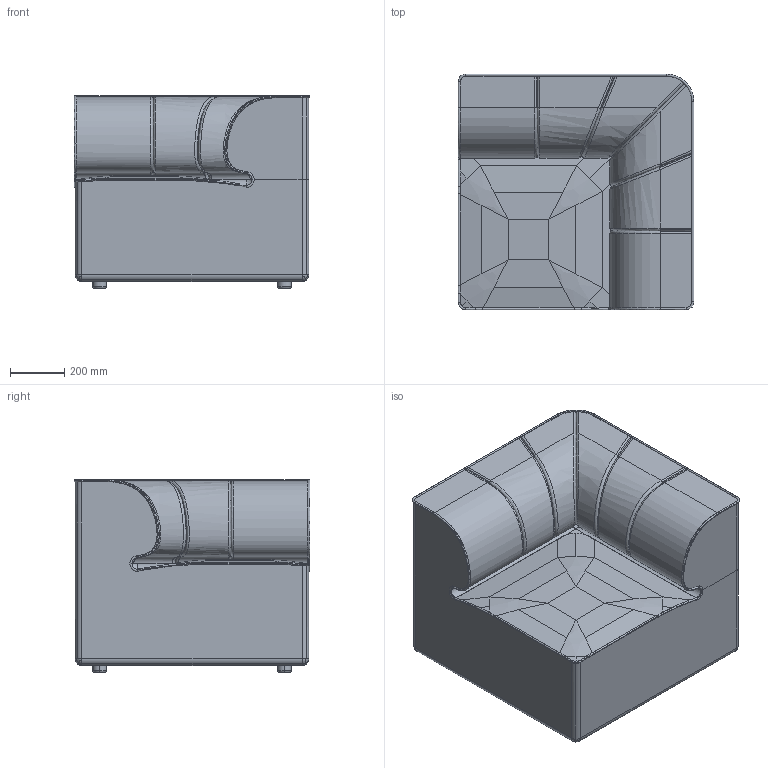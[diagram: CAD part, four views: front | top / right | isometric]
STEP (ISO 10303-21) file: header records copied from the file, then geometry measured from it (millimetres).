
FILE_DESCRIPTION (( 'STEP AP214' ), '1' );
FILE_NAME ('Eave Seamline Modular Sofa 86, Corner.STEP', '2024-07-03T13:24:54', ( '' ), ( '' ), 'SwSTEP 2.0', 'SolidWorks 2022', '' );
FILE_SCHEMA (( 'AUTOMOTIVE_DESIGN' ));
Length unit declared in the file: millimetre
Products named in the file (1): Eave Seamline Modular Sofa 86, Corner
Bounding box: 868 x 868 x 709 mm (x, y, z)
Volume: 394430183.4 mm3; surface area: 4019514.1 mm2
Topology: 6 solids, 6 shells, 212 faces, 498 edges, 293 vertices
Faces by surface type: cylinder 87, bspline 47, plane 43, torus 23, sphere 12
Entity records: 16610 total; most frequent: CARTESIAN_POINT 12207, ORIENTED_EDGE 986, DIRECTION 754, EDGE_CURVE 493, AXIS2_PLACEMENT_3D 303, VERTEX_POINT 293, EDGE_LOOP 214, FACE_OUTER_BOUND 212
